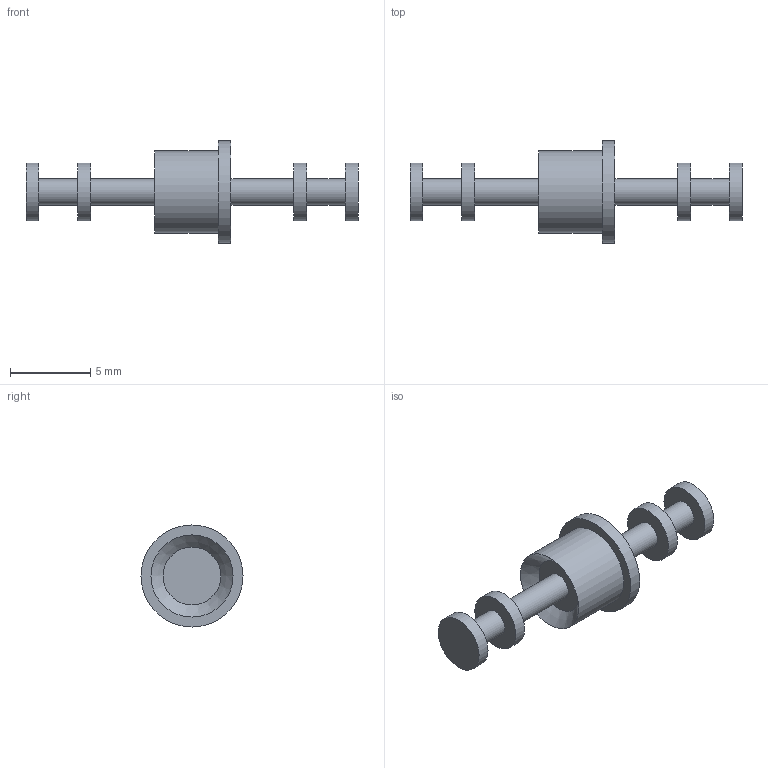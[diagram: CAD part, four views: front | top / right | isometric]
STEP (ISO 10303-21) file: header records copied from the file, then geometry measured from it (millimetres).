
FILE_DESCRIPTION(/* description */ (''),/* implementation_level */ '2;1');
FILE_NAME(/* name */ 'Z:\STEP folder\160-1081-04.ipt.stp',/* time_stamp */ '2016-12-07T10:46:44+00:00',/* author */ ('Paul Karlsons'),/* organization */ (''),/* preprocessor_version */ 'ST-DEVELOPER v15.2',/* originating_system */ 'Autodesk Inventor 2014',/* authorisation */ '');
FILE_SCHEMA (('AUTOMOTIVE_DESIGN { 1 0 10303 214 3 1 1 }'));
Length unit declared in the file: millimetre
Products named in the file (1): 160-1081-04
Bounding box: 20.65 x 6.35 x 6.35 mm (x, y, z)
Volume: 155.2 mm3; surface area: 317.4 mm2
Topology: 1 solids, 1 shells, 22 faces, 32 edges, 21 vertices
Faces by surface type: plane 11, cylinder 10, cone 1
Full cylindrical faces by diameter (mm): 1.651 x4, 3.6 x4, 5.105 x1, 6.35 x1
Entity records: 455 total; most frequent: DIRECTION 88, CARTESIAN_POINT 65, AXIS2_PLACEMENT_3D 44, EDGE_LOOP 42, ORIENTED_EDGE 42, FACE_BOUND 24, ADVANCED_FACE 22, CIRCLE 21
